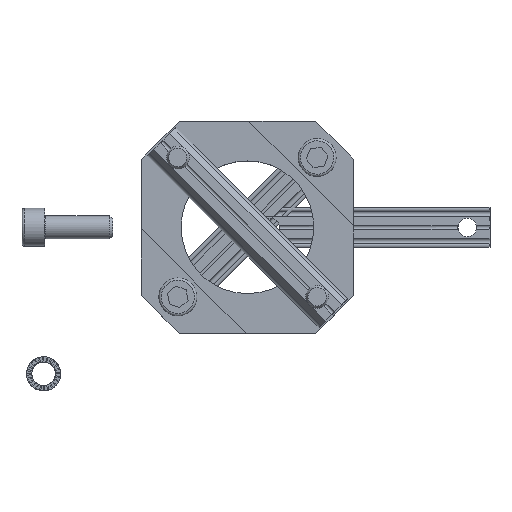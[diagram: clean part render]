
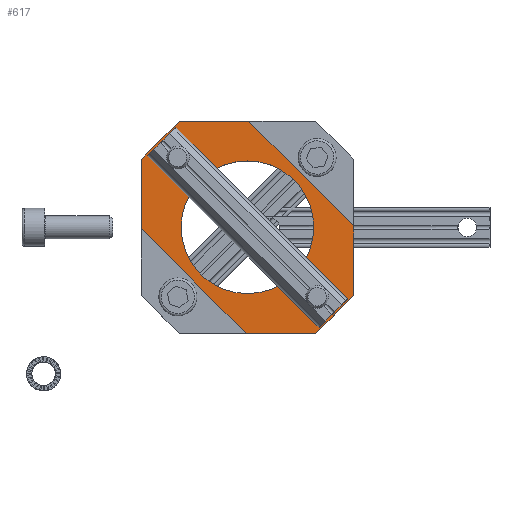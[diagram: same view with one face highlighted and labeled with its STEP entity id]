
A CAD part, top view. The second image highlights one B-rep face of the part: STEP entity #617.
In plain terms, the highlighted planar face has unit normal (0, 0, 1).
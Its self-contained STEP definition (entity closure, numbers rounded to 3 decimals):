
#617 = ADVANCED_FACE( '', ( #1283, #1284, #1285, #1286 ), #1287, .T. );
#1283 = FACE_BOUND( '', #1995, .T. );
#1284 = FACE_OUTER_BOUND( '', #1996, .T. );
#1285 = FACE_BOUND( '', #1997, .T. );
#1286 = FACE_BOUND( '', #1998, .T. );
#1287 = PLANE( '', #1999 );
#1995 = EDGE_LOOP( '', ( #4018 ) );
#1996 = EDGE_LOOP( '', ( #4019, #4020, #4021, #4022, #4023, #4024, #4025, #4026 ) );
#1997 = EDGE_LOOP( '', ( #4027 ) );
#1998 = EDGE_LOOP( '', ( #4028 ) );
#1999 = AXIS2_PLACEMENT_3D( '', #4029, #4030, #4031 );
#4018 = ORIENTED_EDGE( '', *, *, #4985, .F. );
#4019 = ORIENTED_EDGE( '', *, *, #5244, .F. );
#4020 = ORIENTED_EDGE( '', *, *, #4977, .F. );
#4021 = ORIENTED_EDGE( '', *, *, #4876, .F. );
#4022 = ORIENTED_EDGE( '', *, *, #4884, .F. );
#4023 = ORIENTED_EDGE( '', *, *, #4699, .T. );
#4024 = ORIENTED_EDGE( '', *, *, #4693, .F. );
#4025 = ORIENTED_EDGE( '', *, *, #5256, .F. );
#4026 = ORIENTED_EDGE( '', *, *, #5165, .F. );
#4027 = ORIENTED_EDGE( '', *, *, #4835, .F. );
#4028 = ORIENTED_EDGE( '', *, *, #5257, .T. );
#4029 = CARTESIAN_POINT( '', ( -25.047, 53.404, 7. ) );
#4030 = DIRECTION( '', ( 0., 0., 1. ) );
#4031 = DIRECTION( '', ( 0., -1., 0. ) );
#4693 = EDGE_CURVE( '', #5867, #5869, #5870, .T. );
#4699 = EDGE_CURVE( '', #5879, #5869, #5880, .T. );
#4835 = EDGE_CURVE( '', #6078, #6078, #6079, .T. );
#4876 = EDGE_CURVE( '', #6133, #6136, #6137, .F. );
#4884 = EDGE_CURVE( '', #5879, #6133, #6150, .T. );
#4977 = EDGE_CURVE( '', #6136, #6286, #6287, .T. );
#4985 = EDGE_CURVE( '', #6298, #6298, #6299, .T. );
#5165 = EDGE_CURVE( '', #6532, #6534, #6535, .T. );
#5244 = EDGE_CURVE( '', #6286, #6532, #6633, .T. );
#5256 = EDGE_CURVE( '', #6534, #5867, #6645, .T. );
#5257 = EDGE_CURVE( '', #6646, #6646, #6647, .F. );
#5867 = VERTEX_POINT( '', #7621 );
#5869 = VERTEX_POINT( '', #7624 );
#5870 = LINE( '', #7625, #7626 );
#5879 = VERTEX_POINT( '', #7639 );
#5880 = LINE( '', #7640, #7641 );
#6078 = VERTEX_POINT( '', #7915 );
#6079 = CIRCLE( '', #7916, 3.1 );
#6133 = VERTEX_POINT( '', #7988 );
#6136 = VERTEX_POINT( '', #7992 );
#6137 = LINE( '', #7993, #7994 );
#6150 = LINE( '', #8013, #8014 );
#6286 = VERTEX_POINT( '', #8237 );
#6287 = LINE( '', #8238, #8239 );
#6298 = VERTEX_POINT( '', #8255 );
#6299 = CIRCLE( '', #8256, 3.1 );
#6532 = VERTEX_POINT( '', #8573 );
#6534 = VERTEX_POINT( '', #8576 );
#6535 = LINE( '', #8577, #8578 );
#6633 = LINE( '', #8713, #8714 );
#6645 = LINE( '', #8729, #8730 );
#6646 = VERTEX_POINT( '', #8731 );
#6647 = CIRCLE( '', #8732, 17.5 );
#7621 = CARTESIAN_POINT( '', ( 18., -28., 7. ) );
#7624 = CARTESIAN_POINT( '', ( -0.353, -28., 7. ) );
#7625 = CARTESIAN_POINT( '', ( 28., -28., 7. ) );
#7626 = VECTOR( '', #9373, 1000. );
#7639 = CARTESIAN_POINT( '', ( -28., -0.353, 7. ) );
#7640 = CARTESIAN_POINT( '', ( -53.402, 25.049, 7. ) );
#7641 = VECTOR( '', #9378, 1000. );
#7915 = CARTESIAN_POINT( '', ( -18.381, 21.495, 7. ) );
#7916 = AXIS2_PLACEMENT_3D( '', #9521, #9522, #9523 );
#7988 = CARTESIAN_POINT( '', ( -28., 18., 7. ) );
#7992 = CARTESIAN_POINT( '', ( -18., 28., 7. ) );
#7993 = CARTESIAN_POINT( '', ( -28., 18., 7. ) );
#7994 = VECTOR( '', #9567, 1000. );
#8013 = CARTESIAN_POINT( '', ( -28., -28., 7. ) );
#8014 = VECTOR( '', #9574, 1000. );
#8237 = CARTESIAN_POINT( '', ( 0.356, 28., 7. ) );
#8238 = CARTESIAN_POINT( '', ( -28., 28., 7. ) );
#8239 = VECTOR( '', #9665, 1000. );
#8255 = CARTESIAN_POINT( '', ( 18.381, -15.281, 7. ) );
#8256 = AXIS2_PLACEMENT_3D( '', #9671, #9672, #9673 );
#8573 = CARTESIAN_POINT( '', ( 28., 0.356, 7. ) );
#8576 = CARTESIAN_POINT( '', ( 28., -18., 7. ) );
#8577 = CARTESIAN_POINT( '', ( 28., 28., 7. ) );
#8578 = VECTOR( '', #9852, 1000. );
#8713 = CARTESIAN_POINT( '', ( -25.047, 53.404, 7. ) );
#8714 = VECTOR( '', #9968, 1000. );
#8729 = CARTESIAN_POINT( '', ( 37.178, -8.822, 7. ) );
#8730 = VECTOR( '', #9972, 1000. );
#8731 = CARTESIAN_POINT( '', ( 0., -17.5, 7. ) );
#8732 = AXIS2_PLACEMENT_3D( '', #9973, #9974, #9975 );
#9373 = DIRECTION( '', ( -1., 0., 0. ) );
#9378 = DIRECTION( '', ( 0.707, -0.707, 0. ) );
#9521 = CARTESIAN_POINT( '', ( -18.381, 18.395, 7. ) );
#9522 = DIRECTION( '', ( 0., 0., 1. ) );
#9523 = DIRECTION( '', ( 0., 1., 0. ) );
#9567 = DIRECTION( '', ( -0.707, -0.707, 0. ) );
#9574 = DIRECTION( '', ( 0., 1., 0. ) );
#9665 = DIRECTION( '', ( 1., 0., 0. ) );
#9671 = CARTESIAN_POINT( '', ( 18.381, -18.381, 7. ) );
#9672 = DIRECTION( '', ( 0., 0., 1. ) );
#9673 = DIRECTION( '', ( 0., 1., 0. ) );
#9852 = DIRECTION( '', ( 0., -1., 0. ) );
#9968 = DIRECTION( '', ( 0.707, -0.707, 0. ) );
#9972 = DIRECTION( '', ( -0.707, -0.707, 0. ) );
#9973 = CARTESIAN_POINT( '', ( 0., 0., 7. ) );
#9974 = DIRECTION( '', ( 0., 0., 1. ) );
#9975 = DIRECTION( '', ( 0., -1., 0. ) );
